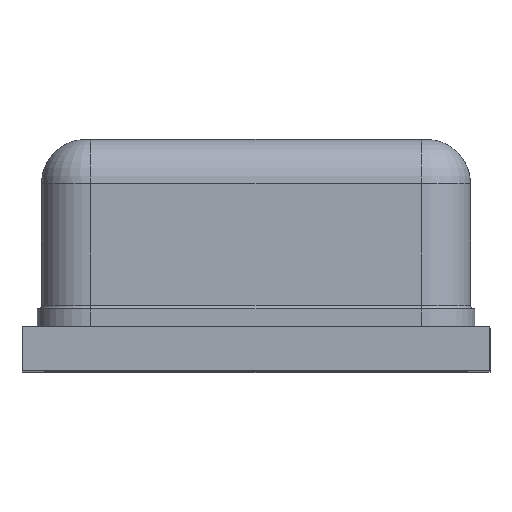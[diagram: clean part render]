
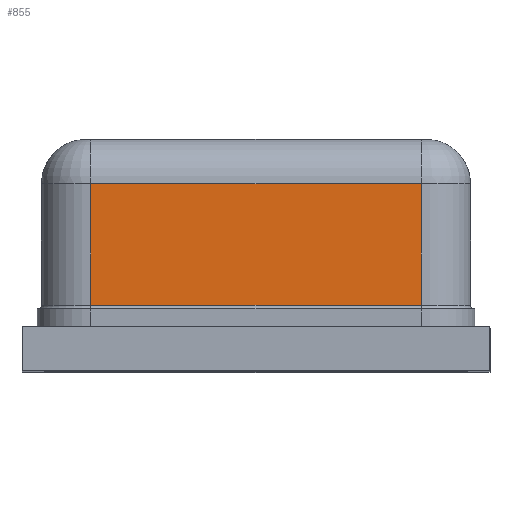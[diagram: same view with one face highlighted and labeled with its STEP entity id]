
A CAD part, top view. The second image highlights one B-rep face of the part: STEP entity #855.
In plain terms, the highlighted planar face has unit normal (0, 0, 1) as drawn and (0, 1, 0) by its records, which use the part's own axes.
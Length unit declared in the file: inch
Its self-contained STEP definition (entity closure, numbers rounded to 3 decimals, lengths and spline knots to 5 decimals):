
#163 = VECTOR ( 'NONE', #2257, 39.37008 ) ;
#187 = VERTEX_POINT ( 'NONE', #671 ) ;
#555 = VECTOR ( 'NONE', #3418, 39.37008 ) ;
#671 = CARTESIAN_POINT ( 'NONE',  ( 0.03189, 0.1678, 0.03681 ) ) ;
#733 = LINE ( 'NONE', #1174, #946 ) ;
#742 = CARTESIAN_POINT ( 'NONE',  ( 0.04173, 0.1678, -0.03681 ) ) ;
#855 = ADVANCED_FACE ( 'NONE', ( #2917 ), #3209, .F. ) ;
#946 = VECTOR ( 'NONE', #2658, 39.37008 ) ;
#968 = LINE ( 'NONE', #2456, #1168 ) ;
#1040 = VERTEX_POINT ( 'NONE', #2699 ) ;
#1168 = VECTOR ( 'NONE', #2088, 39.37008 ) ;
#1174 = CARTESIAN_POINT ( 'NONE',  ( 0.00472, 0.1678, 0.03681 ) ) ;
#1186 = VERTEX_POINT ( 'NONE', #2122 ) ;
#1325 = DIRECTION ( 'NONE',  ( 0., -1., 0. ) ) ;
#1408 = EDGE_CURVE ( 'NONE', #187, #3710, #968, .T. ) ;
#1461 = LINE ( 'NONE', #742, #163 ) ;
#1640 = AXIS2_PLACEMENT_3D ( 'NONE', #3633, #1325, #4685 ) ;
#2088 = DIRECTION ( 'NONE',  ( 0., 0., -1. ) ) ;
#2122 = CARTESIAN_POINT ( 'NONE',  ( 0.00472, 0.1678, -0.03681 ) ) ;
#2186 = ORIENTED_EDGE ( 'NONE', *, *, #3408, .T. ) ;
#2257 = DIRECTION ( 'NONE',  ( -1., 0., 0. ) ) ;
#2443 = EDGE_CURVE ( 'NONE', #1186, #1040, #733, .T. ) ;
#2456 = CARTESIAN_POINT ( 'NONE',  ( 0.03189, 0.1678, -0.03681 ) ) ;
#2533 = EDGE_CURVE ( 'NONE', #1040, #187, #3373, .T. ) ;
#2658 = DIRECTION ( 'NONE',  ( 0., 0., 1. ) ) ;
#2699 = CARTESIAN_POINT ( 'NONE',  ( 0.00472, 0.1678, 0.03681 ) ) ;
#2708 = CARTESIAN_POINT ( 'NONE',  ( 0.04173, 0.1678, 0.03681 ) ) ;
#2917 = FACE_OUTER_BOUND ( 'NONE', #4742, .T. ) ;
#3209 = PLANE ( 'NONE',  #1640 ) ;
#3373 = LINE ( 'NONE', #2708, #555 ) ;
#3386 = ORIENTED_EDGE ( 'NONE', *, *, #2533, .T. ) ;
#3408 = EDGE_CURVE ( 'NONE', #3710, #1186, #1461, .T. ) ;
#3418 = DIRECTION ( 'NONE',  ( 1., 0., 0. ) ) ;
#3633 = CARTESIAN_POINT ( 'NONE',  ( 0.04173, 0.1678, -0.04783 ) ) ;
#3710 = VERTEX_POINT ( 'NONE', #4780 ) ;
#4148 = ORIENTED_EDGE ( 'NONE', *, *, #2443, .T. ) ;
#4491 = ORIENTED_EDGE ( 'NONE', *, *, #1408, .T. ) ;
#4685 = DIRECTION ( 'NONE',  ( 0., 0., -1. ) ) ;
#4742 = EDGE_LOOP ( 'NONE', ( #2186, #4148, #3386, #4491 ) ) ;
#4780 = CARTESIAN_POINT ( 'NONE',  ( 0.03189, 0.1678, -0.03681 ) ) ;
